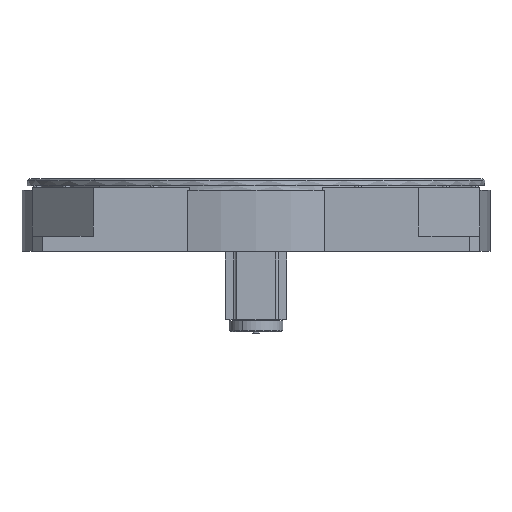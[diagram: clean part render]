
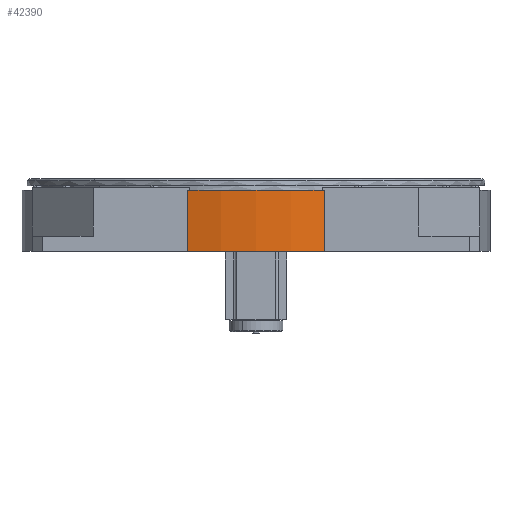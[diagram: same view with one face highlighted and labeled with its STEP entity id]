
A CAD part, left-side view. The second image highlights one B-rep face of the part: STEP entity #42390.
In plain terms, the highlighted cylindrical face has radius 230 mm (diameter 460 mm), a partial arc.
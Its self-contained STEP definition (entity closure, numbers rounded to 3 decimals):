
#38736=CARTESIAN_POINT('',(1415.,1966.765,1421.183));
#38737=VERTEX_POINT('',#38736);
#38744=CARTESIAN_POINT('',(1415.,1832.601,1421.183));
#38745=VERTEX_POINT('',#38744);
#38746=CARTESIAN_POINT('',(1635.,1899.683,1421.183));
#38747=DIRECTION('',(0.0,0.0,1.0));
#38748=DIRECTION('',(0.957,-0.292,0.0));
#38749=AXIS2_PLACEMENT_3D('',#38746,#38747,#38748);
#38750=CIRCLE('',#38749,230.);
#38751=EDGE_CURVE('',#38737,#38745,#38750,.T.);
#41663=CARTESIAN_POINT('',(1415.,1832.601,1361.183));
#41664=VERTEX_POINT('',#41663);
#41671=CARTESIAN_POINT('',(1415.,1966.765,1361.183));
#41672=VERTEX_POINT('',#41671);
#41673=CARTESIAN_POINT('',(1635.,1899.683,1361.183));
#41674=DIRECTION('',(0.0,0.0,-1.0));
#41675=DIRECTION('',(0.957,-0.292,0.0));
#41676=AXIS2_PLACEMENT_3D('',#41673,#41674,#41675);
#41677=CIRCLE('',#41676,230.);
#41678=EDGE_CURVE('',#41664,#41672,#41677,.T.);
#42041=CARTESIAN_POINT('',(1415.,1832.601,1361.183));
#42042=DIRECTION('',(0.0,0.0,1.0));
#42043=VECTOR('',#42042,60.0);
#42044=LINE('',#42041,#42043);
#42045=EDGE_CURVE('',#41664,#38745,#42044,.T.);
#42374=CARTESIAN_POINT('',(1635.,1899.683,1361.183));
#42375=DIRECTION('',(0.0,0.0,1.0));
#42376=DIRECTION('',(0.957,-0.292,0.0));
#42377=AXIS2_PLACEMENT_3D('',#42374,#42375,#42376);
#42378=CYLINDRICAL_SURFACE('',#42377,230.);
#42379=ORIENTED_EDGE('',*,*,#41678,.F.);
#42380=ORIENTED_EDGE('',*,*,#42045,.T.);
#42381=ORIENTED_EDGE('',*,*,#38751,.F.);
#42382=CARTESIAN_POINT('',(1415.,1966.765,1361.183));
#42383=DIRECTION('',(0.0,0.0,1.0));
#42384=VECTOR('',#42383,60.0);
#42385=LINE('',#42382,#42384);
#42386=EDGE_CURVE('',#41672,#38737,#42385,.T.);
#42387=ORIENTED_EDGE('',*,*,#42386,.F.);
#42388=EDGE_LOOP('',(#42379,#42380,#42381,#42387));
#42389=FACE_OUTER_BOUND('',#42388,.T.);
#42390=ADVANCED_FACE('',(#42389),#42378,.T.);
